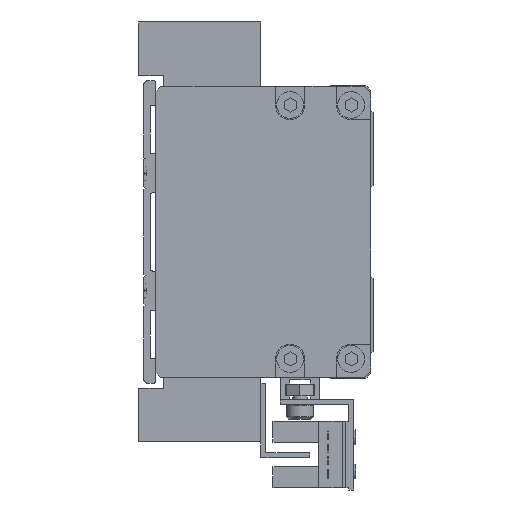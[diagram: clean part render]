
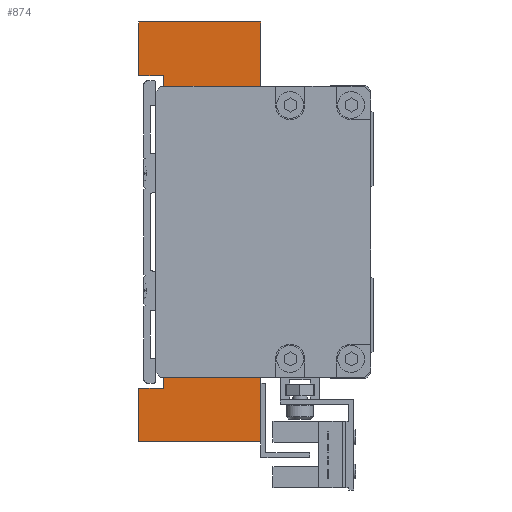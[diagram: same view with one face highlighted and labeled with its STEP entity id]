
A CAD part, left-side view. The second image highlights one B-rep face of the part: STEP entity #874.
In plain terms, the highlighted planar face has unit normal (-1, 0, 0).
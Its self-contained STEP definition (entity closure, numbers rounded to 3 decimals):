
#45 = ORIENTED_EDGE ( 'NONE', *, *, #10897, .T. ) ;
#81 = VECTOR ( 'NONE', #38298, 1000. ) ;
#237 = EDGE_CURVE ( 'NONE', #38193, #26593, #28684, .T. ) ;
#503 = VERTEX_POINT ( 'NONE', #13539 ) ;
#849 = CARTESIAN_POINT ( 'NONE',  ( -77., 10., 0. ) ) ;
#874 = ADVANCED_FACE ( 'NONE', ( #38704 ), #8243, .F. ) ;
#1649 = DIRECTION ( 'NONE',  ( 0., -1., 0. ) ) ;
#1719 = CARTESIAN_POINT ( 'NONE',  ( -77., 0., -43. ) ) ;
#2098 = EDGE_CURVE ( 'NONE', #39135, #38193, #10689, .T. ) ;
#2354 = LINE ( 'NONE', #11669, #38807 ) ;
#2426 = VERTEX_POINT ( 'NONE', #16072 ) ;
#2574 = VERTEX_POINT ( 'NONE', #38115 ) ;
#2943 = CARTESIAN_POINT ( 'NONE',  ( -77., 25., -43. ) ) ;
#3015 = VECTOR ( 'NONE', #28837, 1000. ) ;
#3223 = VECTOR ( 'NONE', #13126, 1000. ) ;
#3229 = ORIENTED_EDGE ( 'NONE', *, *, #17011, .F. ) ;
#3516 = ORIENTED_EDGE ( 'NONE', *, *, #29479, .F. ) ;
#3627 = CARTESIAN_POINT ( 'NONE',  ( -77., 10., 21. ) ) ;
#3729 = CARTESIAN_POINT ( 'NONE',  ( -77., 25., 32. ) ) ;
#3877 = EDGE_CURVE ( 'NONE', #37894, #17652, #2354, .T. ) ;
#4068 = CARTESIAN_POINT ( 'NONE',  ( -77., 5., -28. ) ) ;
#4069 = VECTOR ( 'NONE', #19880, 1000. ) ;
#4385 = CARTESIAN_POINT ( 'NONE',  ( -77., 25., -43. ) ) ;
#4776 = ORIENTED_EDGE ( 'NONE', *, *, #3877, .F. ) ;
#4806 = DIRECTION ( 'NONE',  ( 0., 0., -1. ) ) ;
#4850 = ORIENTED_EDGE ( 'NONE', *, *, #7916, .F. ) ;
#4946 = EDGE_CURVE ( 'NONE', #26175, #30996, #10879, .T. ) ;
#4948 = VECTOR ( 'NONE', #9030, 1000. ) ;
#5524 = CARTESIAN_POINT ( 'NONE',  ( -77., 5., -21. ) ) ;
#5558 = DIRECTION ( 'NONE',  ( 0., -1., 0. ) ) ;
#6255 = ORIENTED_EDGE ( 'NONE', *, *, #26038, .T. ) ;
#6600 = CARTESIAN_POINT ( 'NONE',  ( -77., 20., 32. ) ) ;
#6614 = VECTOR ( 'NONE', #5558, 1000. ) ;
#6669 = LINE ( 'NONE', #14297, #27328 ) ;
#6782 = VERTEX_POINT ( 'NONE', #21038 ) ;
#7061 = ORIENTED_EDGE ( 'NONE', *, *, #4946, .F. ) ;
#7560 = VECTOR ( 'NONE', #32936, 1000. ) ;
#7916 = EDGE_CURVE ( 'NONE', #2426, #6782, #31858, .T. ) ;
#8243 = PLANE ( 'NONE',  #19998 ) ;
#8626 = VECTOR ( 'NONE', #28460, 1000. ) ;
#8835 = VERTEX_POINT ( 'NONE', #18175 ) ;
#9030 = DIRECTION ( 'NONE',  ( 0., 0., 1. ) ) ;
#9706 = DIRECTION ( 'NONE',  ( 0., 0., -1. ) ) ;
#10176 = CARTESIAN_POINT ( 'NONE',  ( -77., 5., 28. ) ) ;
#10594 = EDGE_CURVE ( 'NONE', #503, #29008, #6669, .T. ) ;
#10600 = ORIENTED_EDGE ( 'NONE', *, *, #33124, .F. ) ;
#10689 = LINE ( 'NONE', #2943, #26074 ) ;
#10698 = CARTESIAN_POINT ( 'NONE',  ( -77., 0., -28. ) ) ;
#10879 = LINE ( 'NONE', #11037, #25812 ) ;
#10883 = DIRECTION ( 'NONE',  ( 1., 0., 0. ) ) ;
#10897 = EDGE_CURVE ( 'NONE', #503, #20134, #21091, .T. ) ;
#11037 = CARTESIAN_POINT ( 'NONE',  ( -77., 5., -28. ) ) ;
#11048 = CARTESIAN_POINT ( 'NONE',  ( -77., 0., -43. ) ) ;
#11669 = CARTESIAN_POINT ( 'NONE',  ( -77., 20., 32. ) ) ;
#12002 = CARTESIAN_POINT ( 'NONE',  ( -77., 25., -32. ) ) ;
#12287 = EDGE_CURVE ( 'NONE', #2574, #35355, #19591, .T. ) ;
#12656 = ORIENTED_EDGE ( 'NONE', *, *, #19314, .T. ) ;
#12658 = VERTEX_POINT ( 'NONE', #15953 ) ;
#12705 = DIRECTION ( 'NONE',  ( 0., 0., -1. ) ) ;
#13126 = DIRECTION ( 'NONE',  ( 0., 0., -1. ) ) ;
#13225 = VECTOR ( 'NONE', #9706, 1000. ) ;
#13539 = CARTESIAN_POINT ( 'NONE',  ( -77., 9., -21. ) ) ;
#13787 = CARTESIAN_POINT ( 'NONE',  ( -77., 9., 21. ) ) ;
#14297 = CARTESIAN_POINT ( 'NONE',  ( -77., 9., -21. ) ) ;
#15035 = EDGE_CURVE ( 'NONE', #30996, #15662, #29834, .T. ) ;
#15303 = DIRECTION ( 'NONE',  ( 0., 0., 1. ) ) ;
#15628 = LINE ( 'NONE', #1719, #4069 ) ;
#15662 = VERTEX_POINT ( 'NONE', #11048 ) ;
#15953 = CARTESIAN_POINT ( 'NONE',  ( -77., 25., 43. ) ) ;
#16059 = EDGE_CURVE ( 'NONE', #26593, #37894, #24970, .T. ) ;
#16072 = CARTESIAN_POINT ( 'NONE',  ( -77., 0., 43. ) ) ;
#16638 = ORIENTED_EDGE ( 'NONE', *, *, #12287, .F. ) ;
#17011 = EDGE_CURVE ( 'NONE', #12658, #2426, #38236, .T. ) ;
#17652 = VERTEX_POINT ( 'NONE', #3729 ) ;
#17742 = VECTOR ( 'NONE', #21715, 1000. ) ;
#18175 = CARTESIAN_POINT ( 'NONE',  ( -77., 9., 21. ) ) ;
#18368 = CARTESIAN_POINT ( 'NONE',  ( -77., 10., 21. ) ) ;
#19015 = CARTESIAN_POINT ( 'NONE',  ( -77., 20., -32. ) ) ;
#19314 = EDGE_CURVE ( 'NONE', #8835, #35355, #23679, .T. ) ;
#19388 = CARTESIAN_POINT ( 'NONE',  ( -77., 20., -32. ) ) ;
#19408 = CARTESIAN_POINT ( 'NONE',  ( -77., 10., 21. ) ) ;
#19591 = LINE ( 'NONE', #10176, #3223 ) ;
#19685 = VECTOR ( 'NONE', #24014, 1000. ) ;
#19880 = DIRECTION ( 'NONE',  ( 0., 1., 0. ) ) ;
#19998 = AXIS2_PLACEMENT_3D ( 'NONE', #849, #10883, #20603 ) ;
#20134 = VERTEX_POINT ( 'NONE', #31113 ) ;
#20373 = LINE ( 'NONE', #30080, #4948 ) ;
#20603 = DIRECTION ( 'NONE',  ( 0., 0., -1. ) ) ;
#21038 = CARTESIAN_POINT ( 'NONE',  ( -77., 0., 28. ) ) ;
#21091 = LINE ( 'NONE', #33985, #17742 ) ;
#21108 = LINE ( 'NONE', #38740, #39731 ) ;
#21234 = EDGE_CURVE ( 'NONE', #24451, #20134, #24290, .T. ) ;
#21346 = ORIENTED_EDGE ( 'NONE', *, *, #2098, .F. ) ;
#21715 = DIRECTION ( 'NONE',  ( 0., 1., 0. ) ) ;
#22294 = ORIENTED_EDGE ( 'NONE', *, *, #10594, .F. ) ;
#23679 = LINE ( 'NONE', #13787, #3015 ) ;
#24014 = DIRECTION ( 'NONE',  ( 0., 1., 0. ) ) ;
#24290 = LINE ( 'NONE', #19408, #13225 ) ;
#24451 = VERTEX_POINT ( 'NONE', #3627 ) ;
#24671 = VECTOR ( 'NONE', #12705, 1000. ) ;
#24923 = CARTESIAN_POINT ( 'NONE',  ( -77., 0., 43. ) ) ;
#24970 = LINE ( 'NONE', #19388, #8626 ) ;
#25812 = VECTOR ( 'NONE', #1649, 1000. ) ;
#26038 = EDGE_CURVE ( 'NONE', #24451, #8835, #33463, .T. ) ;
#26074 = VECTOR ( 'NONE', #15303, 1000. ) ;
#26175 = VERTEX_POINT ( 'NONE', #4068 ) ;
#26391 = DIRECTION ( 'NONE',  ( 0., -1., 0. ) ) ;
#26593 = VERTEX_POINT ( 'NONE', #19015 ) ;
#27328 = VECTOR ( 'NONE', #26391, 1000. ) ;
#27367 = DIRECTION ( 'NONE',  ( 0., 1., 0. ) ) ;
#27515 = ORIENTED_EDGE ( 'NONE', *, *, #16059, .F. ) ;
#27954 = ORIENTED_EDGE ( 'NONE', *, *, #15035, .F. ) ;
#28460 = DIRECTION ( 'NONE',  ( 0., 0., 1. ) ) ;
#28684 = LINE ( 'NONE', #12002, #6614 ) ;
#28837 = DIRECTION ( 'NONE',  ( 0., -1., 0. ) ) ;
#28978 = CARTESIAN_POINT ( 'NONE',  ( -77., 5., 21. ) ) ;
#29008 = VERTEX_POINT ( 'NONE', #5524 ) ;
#29479 = EDGE_CURVE ( 'NONE', #29008, #26175, #21108, .T. ) ;
#29834 = LINE ( 'NONE', #10698, #81 ) ;
#29858 = CARTESIAN_POINT ( 'NONE',  ( -77., 25., 43. ) ) ;
#30080 = CARTESIAN_POINT ( 'NONE',  ( -77., 25., 32. ) ) ;
#30102 = ORIENTED_EDGE ( 'NONE', *, *, #21234, .F. ) ;
#30118 = VECTOR ( 'NONE', #30794, 1000. ) ;
#30794 = DIRECTION ( 'NONE',  ( 0., -1., 0. ) ) ;
#30996 = VERTEX_POINT ( 'NONE', #34053 ) ;
#31039 = CARTESIAN_POINT ( 'NONE',  ( -77., 25., -32. ) ) ;
#31113 = CARTESIAN_POINT ( 'NONE',  ( -77., 10., -21. ) ) ;
#31226 = EDGE_CURVE ( 'NONE', #15662, #39135, #15628, .T. ) ;
#31858 = LINE ( 'NONE', #24923, #24671 ) ;
#32936 = DIRECTION ( 'NONE',  ( 0., -1., 0. ) ) ;
#33124 = EDGE_CURVE ( 'NONE', #6782, #2574, #34960, .T. ) ;
#33463 = LINE ( 'NONE', #18368, #30118 ) ;
#33985 = CARTESIAN_POINT ( 'NONE',  ( -77., 9., -21. ) ) ;
#34053 = CARTESIAN_POINT ( 'NONE',  ( -77., 0., -28. ) ) ;
#34960 = LINE ( 'NONE', #39365, #19685 ) ;
#35355 = VERTEX_POINT ( 'NONE', #28978 ) ;
#35702 = ORIENTED_EDGE ( 'NONE', *, *, #237, .F. ) ;
#36091 = EDGE_CURVE ( 'NONE', #17652, #12658, #20373, .T. ) ;
#36251 = ORIENTED_EDGE ( 'NONE', *, *, #36091, .F. ) ;
#37826 = EDGE_LOOP ( 'NONE', ( #6255, #12656, #16638, #10600, #4850, #3229, #36251, #4776, #27515, #35702, #21346, #39228, #27954, #7061, #3516, #22294, #45, #30102 ) ) ;
#37894 = VERTEX_POINT ( 'NONE', #6600 ) ;
#38115 = CARTESIAN_POINT ( 'NONE',  ( -77., 5., 28. ) ) ;
#38193 = VERTEX_POINT ( 'NONE', #31039 ) ;
#38236 = LINE ( 'NONE', #29858, #7560 ) ;
#38298 = DIRECTION ( 'NONE',  ( 0., 0., -1. ) ) ;
#38704 = FACE_OUTER_BOUND ( 'NONE', #37826, .T. ) ;
#38740 = CARTESIAN_POINT ( 'NONE',  ( -77., 5., -21. ) ) ;
#38807 = VECTOR ( 'NONE', #27367, 1000. ) ;
#39135 = VERTEX_POINT ( 'NONE', #4385 ) ;
#39228 = ORIENTED_EDGE ( 'NONE', *, *, #31226, .F. ) ;
#39365 = CARTESIAN_POINT ( 'NONE',  ( -77., 0., 28. ) ) ;
#39731 = VECTOR ( 'NONE', #4806, 1000. ) ;
